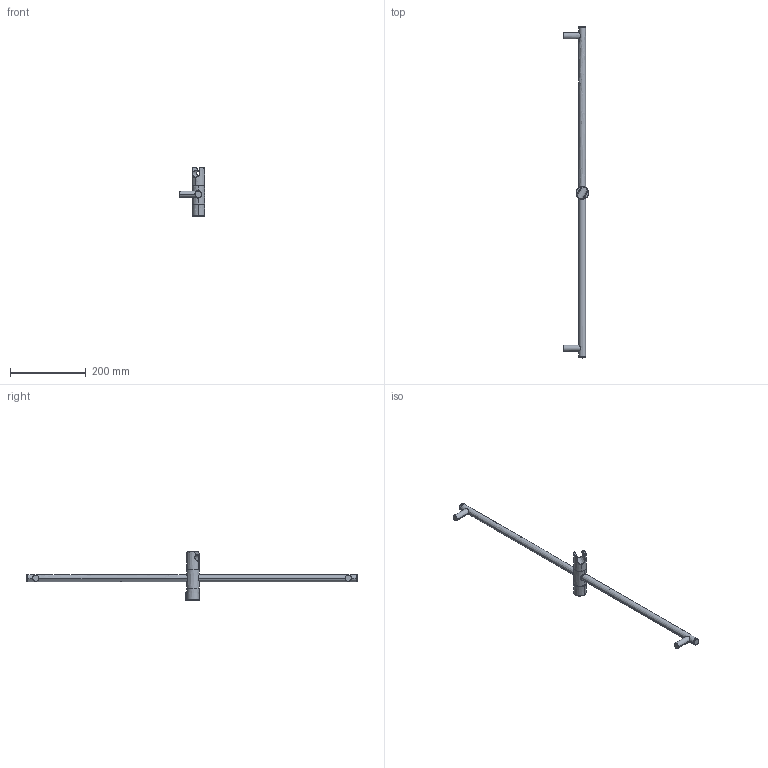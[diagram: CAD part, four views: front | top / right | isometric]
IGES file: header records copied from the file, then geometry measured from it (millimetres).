
Start section:  PTC IGES file: vhc600.igs
Global section: file name: vhc600.igs; native system: Pro/ENGINEER by Parametric Technology Corporation; preprocessor: 2010180; author: damjan; organization: Unknown; date: 20101129.125343; units: millimetre
Bounding box: 66.65 x 874 x 127.55 mm (x, y, z)
Volume: 132206.8 mm3; surface area: 113035.1 mm2
Topology: 1 solids, 3 shells, 101 faces, 249 edges, 151 vertices
Faces by surface type: revolution 59, bspline 42
